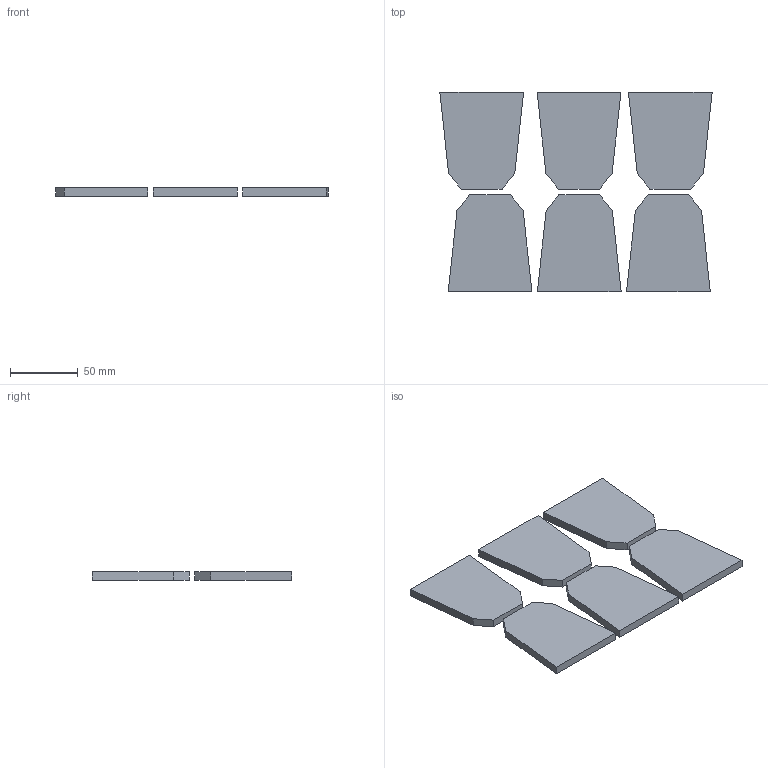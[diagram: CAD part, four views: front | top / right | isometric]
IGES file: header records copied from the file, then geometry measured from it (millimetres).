
Start section: SolidWorks IGES FILE using analytic representation for surfaces
Global section: file name: C:\Documents and Settings\MYKEUL\Mes documents\COLLEGE 200809\LES PONTS 5°\FABRICATION MAQUETTES\MAQUETTE N°5\FICHIER FAB\6 Pylones.IGS; native system: SolidWorks 2001 by SolidWorks Corporation; preprocessor: Version 5.2; author: MYKEUL; date: 081021.235923; units: millimetre
Bounding box: 200.73 x 146.71 x 6 mm (x, y, z)
Surface area: 53773.6 mm2 (no closed solid volume)
Topology: 0 solids, 0 shells, 48 faces, 216 edges, 216 vertices
Faces by surface type: bspline 48
